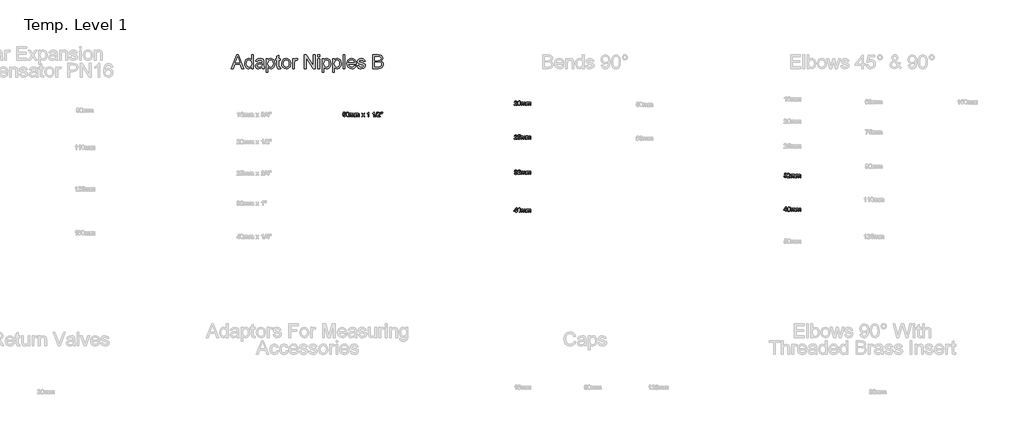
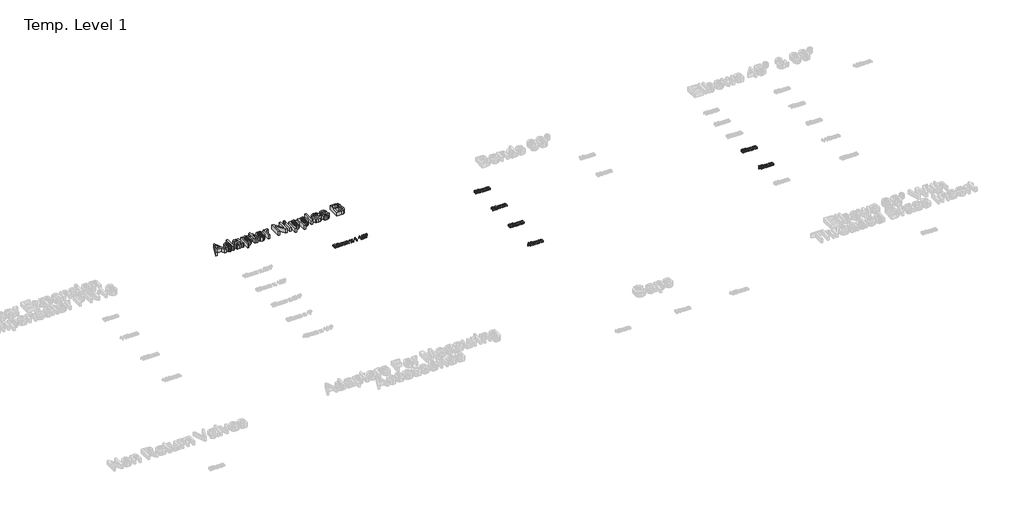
# One storey, part 59 of 62: 8 proxies.
"""IFC4 building model written with IfcOpenShell, lengths in millimetres."""

from ifc_helpers import new_model, si_unit, origin, origin_with_axes, place, context, project, spatial, polyline, outline, extrude, element, save

model = new_model("IFC4")

# Units and contexts
model_context = context("Model", 3, world=origin())
ifc_project = project(units=[si_unit("LENGTHUNIT", "METRE", prefix="MILLI")], contexts=[model_context])

# Site, building, storey
site = spatial("IfcSite", under=ifc_project)
building = spatial("IfcBuilding", under=site)
storey = spatial("IfcBuildingStorey", under=building, Name="Temp. Level 1", Elevation=0.0)

# Proxies
placement = place(None, origin())
element("IfcBuildingElementProxy", 1, Name="150mm Arial", ObjectType="150mm Arial", at=placement, inside=storey, context=model_context, shape_type="SweptSolid", body=[
    extrude(outline(polyline([(17593.1488865, 1929.801483), (17652.1032135, 2077.4937907), (17667.8243673, 2077.4937907), (17726.7786942, 1929.801483), (17707.2714827, 1929.801483), (17690.360425, 1975.9553291), (17629.5310981, 1975.9553291), (17612.6560981, 1929.801483), (17593.1488865, 1929.801483)]), holes=[polyline([(17636.3099442, 1994.4168676), (17683.6176365, 1994.4168676), (17670.3123481, 2030.7269638), (17659.9637904, 2059.0322522), (17650.7690788, 2033.9000407), (17636.3099442, 1994.4168676)])]), origin_with_axes(), (0.0, 0.0, 1.0), 50.0),
    extrude(outline(polyline([(17811.1176365, 1929.801483), (17811.1176365, 1947.2173484), (17798.9030933, 1932.4246801), (17782.0190788, 1927.4937907), (17770.0839827, 1929.2786464), (17759.1585019, 1934.6332138), (17749.9097038, 1943.183394), (17743.0046558, 1954.5550888), (17738.704776, 1968.2885623), (17737.2714827, 1983.9240791), (17742.5539346, 2013.3110984), (17749.1524923, 2024.9667474), (17758.3832615, 2033.5394638), (17769.5476245, 2038.8129013), (17781.9469635, 2040.5707138), (17798.9661942, 2035.5406657), (17811.1176365, 2022.4697522), (17811.1176365, 2077.4937907), (17829.579175, 2077.4937907), (17829.579175, 1929.801483), (17811.1176365, 1929.801483)]), holes=[polyline([(17755.7330212, 1983.9961945), (17757.8153529, 1967.2969758), (17764.0623481, 1955.4204734), (17773.1398721, 1948.3216152), (17783.7137904, 1945.9553291), (17794.2832014, 1948.2134421), (17803.1308577, 1954.9877811), (17809.1209418, 1966.4045479), (17811.1176365, 1982.5899445), (17809.0848841, 2000.285257), (17802.9866269, 2012.5538868), (17793.9136101, 2019.7203532), (17782.9565788, 2022.1091753), (17772.2744875, 2019.8150046), (17763.5214827, 2012.9324926), (17757.6801365, 2001.1100767), (17755.7330212, 1983.9961945)])]), origin_with_axes(), (0.0, 0.0, 1.0), 50.0),
    extrude(outline(polyline([(17926.5022519, 1943.6476368), (17908.5996077, 1931.1356176), (17888.8219635, 1927.4937907), (17873.3937784, 1929.6842955), (17862.0130692, 1936.2558099), (17854.9953409, 1946.2347763), (17852.6560981, 1958.6476368), (17856.1897519, 1973.2510022), (17865.4746077, 1983.8519638), (17878.4012904, 1989.9096561), (17894.3748481, 1992.6860984), (17926.3940788, 1999.0322522), (17926.5022519, 2003.1428291), (17925.2312183, 2011.3820118), (17921.4181173, 2016.7726368), (17912.8904731, 2020.7750407), (17901.0094635, 2022.1091753), (17882.3315788, 2018.5574926), (17873.4253288, 2005.9553291), (17854.9637904, 2008.2630214), (17862.9505692, 2026.2918676), (17879.0323, 2036.8567714), (17903.3892712, 2040.5707138), (17925.7630692, 2037.2894638), (17938.4012904, 2029.0502811), (17944.0623481, 2016.520233), (17944.9637904, 2000.3663868), (17944.9637904, 1977.3976368), (17945.9012904, 1945.3243195), (17949.579175, 1929.801483), (17931.1176365, 1929.801483), (17926.5022519, 1943.6476368)]), holes=[polyline([(17926.5022519, 1980.5707138), (17896.7185981, 1974.9096561), (17880.8351846, 1971.9168676), (17873.641675, 1967.0490791), (17871.1176365, 1959.9457138), (17876.6164346, 1949.957733), (17892.7522519, 1945.9553291), (17911.4301365, 1950.3723964), (17923.4734058, 1961.0635022), (17926.3940788, 1975.3423484), (17926.5022519, 1980.5707138)])]), origin_with_axes(), (0.0, 0.0, 1.0), 50.0),
    extrude(outline(polyline([(17970.3484058, 1888.2630214), (17970.3484058, 2038.2630214), (17988.8099442, 2038.2630214), (17988.8099442, 2020.1620599), (18001.5743673, 2035.4685503), (18018.8099442, 2040.5707138), (18031.2949202, 2038.785858), (18042.2113865, 2033.4312907), (18051.0996077, 2024.8315311), (18057.4998481, 2013.3110984), (18062.6560981, 1984.8615791), (18061.2002688, 1969.0728171), (18056.8327808, 1954.9517234), (18049.6933577, 1943.2149445), (18039.9217231, 1934.5791272), (18028.5410139, 1929.2651248), (18016.5743673, 1927.4937907), (18000.5106654, 1932.2353772), (17988.8099442, 1944.2245599), (17988.8099442, 1888.2630214), (17970.3484058, 1888.2630214)]), holes=[polyline([(17988.8099442, 1983.1668676), (17990.8066389, 1966.6163868), (17996.7967231, 1955.0418676), (18005.6353649, 1948.2269638), (18016.1777327, 1945.9553291), (18026.8913745, 1948.3080936), (18035.9553769, 1955.3663868), (18042.1347639, 1967.3645839), (18044.1945596, 1984.5370599), (18042.1843433, 2000.9973964), (18036.1536942, 2012.7341753), (18027.328574, 2019.7654253), (18016.9349442, 2022.1091753), (18006.5007495, 2019.6166873), (17997.3375885, 2012.1392234), (17990.9418553, 1999.9111585), (17988.8099442, 1983.1668676)])]), origin_with_axes(), (0.0, 0.0, 1.0), 50.0),
    extrude(outline(polyline([(18122.6560981, 1945.1981176), (18124.9637904, 1929.2606176), (18111.1536942, 1927.4937907), (18095.6849442, 1930.5586945), (18087.9685981, 1938.5995599), (18085.7330212, 1959.5490791), (18085.7330212, 2019.801483), (18071.8868673, 2019.801483), (18071.8868673, 2038.2630214), (18085.7330212, 2038.2630214), (18085.7330212, 2064.6211945), (18104.1945596, 2075.4745599), (18104.1945596, 2038.2630214), (18122.6560981, 2038.2630214), (18122.6560981, 2019.801483), (18104.1945596, 2019.801483), (18104.1945596, 1960.0899445), (18105.1681173, 1950.5707138), (18108.3231654, 1947.1993195), (18114.6152327, 1945.9553291), (18122.6560981, 1945.1981176)])), origin_with_axes(), (0.0, 0.0, 1.0), 50.0),
    extrude(outline(polyline([(18136.5022519, 1984.0322522), (18140.4956413, 2010.1830936), (18152.4758096, 2028.5635022), (18167.2774923, 2037.5689109), (18184.9998481, 2040.5707138), (18204.3943793, 2036.9153652), (18219.8856654, 2025.9493195), (18230.040413, 2008.5379613), (18233.4253288, 1985.5466753), (18231.9289346, 1966.8958339), (18227.4397519, 1952.6981176), (18220.0884899, 1942.0656056), (18210.0058577, 1934.1103772), (18198.0301966, 1929.1479373), (18184.9998481, 1927.4937907), (18165.3709418, 1931.1356176), (18149.8976846, 1942.0610984), (18139.8511101, 1959.8375407), (18136.5022519, 1984.0322522)]), holes=[polyline([(18154.9637904, 1984.0683099), (18157.1002087, 1967.3600767), (18163.5094635, 1955.4565311), (18173.1548962, 1948.3306296), (18184.9998481, 1945.9553291), (18196.7907135, 1948.3441513), (18206.4181173, 1955.5106176), (18212.8273721, 1967.5719157), (18214.9637904, 1984.645233), (18212.8138505, 2000.8666873), (18206.3640308, 2012.6079734), (18196.7231053, 2019.7338748), (18184.9998481, 2022.1091753), (18173.1548962, 2019.7428892), (18163.5094635, 2012.6440311), (18157.1002087, 2000.7675287), (18154.9637904, 1984.0683099)])]), origin_with_axes(), (0.0, 0.0, 1.0), 50.0),
    extrude(outline(polyline([(18254.1945596, 1929.801483), (18254.1945596, 2038.2630214), (18270.3484058, 2038.2630214), (18270.3484058, 2022.2173484), (18281.8147519, 2037.0010022), (18293.3532135, 2040.5707138), (18311.8868673, 2034.8735984), (18305.7210019, 2018.3231176), (18292.7402327, 2022.1091753), (18282.3015308, 2018.4673484), (18275.6488865, 2008.3711945), (18272.6560981, 1986.8086945), (18272.6560981, 1929.801483), (18254.1945596, 1929.801483)])), origin_with_axes(), (0.0, 0.0, 1.0), 50.0),
    extrude(outline(polyline([(18383.4253288, 1929.801483), (18383.4253288, 2077.4937907), (18403.1849442, 2077.4937907), (18480.3484058, 1960.4865791), (18480.3484058, 2077.4937907), (18498.8099442, 2077.4937907), (18498.8099442, 1929.801483), (18479.0503288, 1929.801483), (18401.8868673, 2046.8447522), (18401.8868673, 1929.801483), (18383.4253288, 1929.801483)])), origin_with_axes(), (0.0, 0.0, 1.0), 50.0),
    extrude(outline(polyline([(18528.8099442, 1929.801483), (18528.8099442, 2038.2630214), (18547.2714827, 2038.2630214), (18547.2714827, 1929.801483), (18528.8099442, 1929.801483)])), origin_with_axes(), (0.0, 0.0, 1.0), 50.0),
    extrude(outline(polyline([(18528.8099442, 2059.0322522), (18528.8099442, 2077.4937907), (18547.2714827, 2077.4937907), (18547.2714827, 2059.0322522), (18528.8099442, 2059.0322522)])), origin_with_axes(), (0.0, 0.0, 1.0), 50.0),
    extrude(outline(polyline([(18574.9637904, 1888.2630214), (18574.9637904, 2038.2630214), (18593.4253288, 2038.2630214), (18593.4253288, 2020.1620599), (18606.1897519, 2035.4685503), (18623.4253288, 2040.5707138), (18635.9103048, 2038.785858), (18646.8267712, 2033.4312907), (18655.7149923, 2024.8315311), (18662.1152327, 2013.3110984), (18667.2714827, 1984.8615791), (18665.8156534, 1969.0728171), (18661.4481654, 1954.9517234), (18654.3087423, 1943.2149445), (18644.5371077, 1934.5791272), (18633.1563986, 1929.2651248), (18621.1897519, 1927.4937907), (18605.12605, 1932.2353772), (18593.4253288, 1944.2245599), (18593.4253288, 1888.2630214), (18574.9637904, 1888.2630214)]), holes=[polyline([(18593.4253288, 1983.1668676), (18595.4220236, 1966.6163868), (18601.4121077, 1955.0418676), (18610.2507495, 1948.2269638), (18620.7931173, 1945.9553291), (18631.5067591, 1948.3080936), (18640.5707615, 1955.3663868), (18646.7501486, 1967.3645839), (18648.8099442, 1984.5370599), (18646.7997279, 2000.9973964), (18640.7690788, 2012.7341753), (18631.9439587, 2019.7654253), (18621.5503288, 2022.1091753), (18611.1161341, 2019.6166873), (18601.9529731, 2012.1392234), (18595.5572399, 1999.9111585), (18593.4253288, 1983.1668676)])]), origin_with_axes(), (0.0, 0.0, 1.0), 50.0),
    extrude(outline(polyline([(18688.0407135, 1888.2630214), (18688.0407135, 2038.2630214), (18706.5022519, 2038.2630214), (18706.5022519, 2020.1620599), (18719.266675, 2035.4685503), (18736.5022519, 2040.5707138), (18748.9872279, 2038.785858), (18759.9036942, 2033.4312907), (18768.7919154, 2024.8315311), (18775.1921558, 2013.3110984), (18780.3484058, 1984.8615791), (18778.8925764, 1969.0728171), (18774.5250885, 1954.9517234), (18767.3856654, 1943.2149445), (18757.6140308, 1934.5791272), (18746.2333216, 1929.2651248), (18734.266675, 1927.4937907), (18718.2029731, 1932.2353772), (18706.5022519, 1944.2245599), (18706.5022519, 1888.2630214), (18688.0407135, 1888.2630214)]), holes=[polyline([(18706.5022519, 1983.1668676), (18708.4989466, 1966.6163868), (18714.4890308, 1955.0418676), (18723.3276726, 1948.2269638), (18733.8700404, 1945.9553291), (18744.5836822, 1948.3080936), (18753.6476846, 1955.3663868), (18759.8270716, 1967.3645839), (18761.8868673, 1984.5370599), (18759.876651, 2000.9973964), (18753.8460019, 2012.7341753), (18745.0208817, 2019.7654253), (18734.6272519, 2022.1091753), (18724.1930572, 2019.6166873), (18715.0298962, 2012.1392234), (18708.634163, 1999.9111585), (18706.5022519, 1983.1668676)])]), origin_with_axes(), (0.0, 0.0, 1.0), 50.0),
    extrude(outline(polyline([(18801.1176365, 1929.801483), (18801.1176365, 2077.4937907), (18819.579175, 2077.4937907), (18819.579175, 1929.801483), (18801.1176365, 1929.801483)])), origin_with_axes(), (0.0, 0.0, 1.0), 50.0),
    extrude(outline(polyline([(18923.2089827, 1962.1091753), (18941.3099442, 1959.801483), (18934.7880091, 1946.1626609), (18924.3808577, 1935.9673484), (18910.3228649, 1929.6121801), (18892.8484058, 1927.4937907), (18871.1867471, 1931.1491392), (18854.5190788, 1942.1151849), (18843.891074, 1959.6797883), (18840.3484058, 1983.1308099), (18843.9271317, 2007.3705936), (18854.6633096, 2025.4985984), (18871.1056173, 2036.8026849), (18891.8027327, 2040.5707138), (18911.8553168, 2036.8116993), (18927.8784538, 2025.5346561), (18938.3847639, 2007.4427089), (18941.8868673, 1983.238983), (18941.7786942, 1978.2630214), (18858.8099442, 1978.2630214), (18862.0055572, 1964.4439109), (18869.4289346, 1954.2846561), (18880.1425764, 1948.0376609), (18893.2089827, 1945.9553291), (18911.3099442, 1949.8135022), (18923.2089827, 1962.1091753)]), holes=[polyline([(18858.8099442, 1996.7245599), (18923.4253288, 1996.7245599), (18920.9283337, 2006.4781657), (18916.0335019, 2013.4553291), (18905.2702808, 2019.9457138), (18891.7306173, 2022.1091753), (18879.2862063, 2020.3829133), (18868.9962423, 2015.2041272), (18861.8432976, 2007.1317113), (18858.8099442, 1996.7245599)])]), origin_with_axes(), (0.0, 0.0, 1.0), 50.0),
    extrude(outline(polyline([(18953.4253288, 1962.1091753), (18971.8868673, 1964.4168676), (18974.798526, 1956.520233), (18980.4325404, 1950.7149445), (19000.0118673, 1945.9553291), (19018.8339827, 1950.3183099), (19024.9637904, 1960.5586945), (19018.797925, 1968.8519638), (18999.7955212, 1974.1163868), (18971.9950404, 1983.1488388), (18959.8616269, 1993.6957138), (18955.7330212, 2008.5875407), (18959.0503288, 2022.3435503), (18968.1008096, 2032.8543676), (18979.8375885, 2038.317108), (18995.7210019, 2040.5707138), (19018.1849442, 2036.9469157), (19032.4637904, 2027.1392234), (19038.8099442, 2010.5707138), (19020.3484058, 2008.2630214), (19013.4073, 2018.4493195), (18997.1633096, 2022.1091753), (18979.4950404, 2018.6115791), (18974.1945596, 2010.4625407), (18976.3940788, 2005.0899445), (18983.2810981, 2001.0154253), (18999.1825404, 1997.0851368), (19026.2798962, 1988.395233), (19038.8640308, 1978.551483), (19043.4253288, 1962.5058099), (19038.0707615, 1944.8375407), (19022.6200404, 1932.0190311), (18999.7594635, 1927.4937907), (18981.1446798, 1929.6752811), (18967.5599442, 1936.2197522), (18958.4914346, 1947.0550888), (18953.4253288, 1962.1091753)])), origin_with_axes(), (0.0, 0.0, 1.0), 50.0),
    extrude(outline(polyline([(19124.1945596, 1929.801483), (19124.1945596, 2077.4937907), (19180.5527327, 2077.4937907), (19208.1548962, 2073.1488388), (19217.4307375, 2067.636519), (19224.4529731, 2059.7894638), (19230.3484058, 2040.895233), (19225.3904731, 2023.6416272), (19210.4085019, 2010.5707138), (19220.8697399, 2005.1079734), (19228.5996077, 1996.7966753), (19233.3727447, 1986.1866993), (19234.9637904, 1973.8279253), (19230.6188385, 1953.9781657), (19219.8556173, 1939.8435503), (19203.7919154, 1932.3435503), (19180.1200404, 1929.801483), (19124.1945596, 1929.801483)]), holes=[polyline([(19142.6560981, 1948.2630214), (19180.516675, 1948.2630214), (19194.2185981, 1948.9841753), (19205.8111462, 1953.004608), (19213.4914346, 1961.207733), (19216.5022519, 1973.6476368), (19212.9685981, 1987.9985984), (19201.5202808, 1996.5623003), (19178.7137904, 1999.0322522), (19142.6560981, 1999.0322522), (19142.6560981, 1948.2630214)]), polyline([(19142.6560981, 2017.4937907), (19176.3700404, 2017.4937907), (19196.0575404, 2019.0803291), (19207.9024923, 2025.9132618), (19211.8868673, 2037.9385022), (19208.172925, 2049.9817714), (19197.5359058, 2057.1031657), (19173.8099442, 2059.0322522), (19142.6560981, 2059.0322522), (19142.6560981, 2017.4937907)])]), origin_with_axes(), (0.0, 0.0, 1.0), 50.0),
])
element("IfcBuildingElementProxy", 2, Name="50mm Arial", ObjectType="50mm Arial", at=placement, inside=storey, context=model_context, shape_type="SweptSolid", body=[
    extrude(outline(polyline([(18795.8008487, 1422.8784061), (18801.9546948, 1423.6476368), (18805.0556564, 1417.3074926), (18811.4859448, 1415.1860984), (18819.202291, 1418.1368195), (18821.9546948, 1425.9673484), (18819.3765698, 1433.2750407), (18811.5820987, 1435.9553291), (18806.1794545, 1434.8856176), (18802.7239256, 1432.1091753), (18796.5700795, 1432.8784061), (18801.9546948, 1458.2630214), (18825.8008487, 1458.2630214), (18825.8008487, 1452.1091753), (18806.9306564, 1452.1091753), (18804.2984448, 1438.551483), (18813.3008487, 1442.1091753), (18823.8236852, 1437.6981176), (18828.108541, 1426.3519638), (18824.2503679, 1414.9336945), (18818.7095025, 1410.5076128), (18811.4619064, 1409.0322522), (18800.6025314, 1412.8243195), (18795.8008487, 1422.8784061)])), origin_with_axes(), (0.0, 0.0, 1.0), 15.0),
    extrude(outline(polyline([(18833.4931564, 1434.020233), (18835.3020506, 1448.1848964), (18840.6746468, 1456.3519638), (18849.6470025, 1459.0322522), (18856.8345025, 1457.4457138), (18861.7984448, 1452.8723964), (18864.6830602, 1445.5887426), (18865.8008487, 1434.020233), (18864.0099833, 1419.9156657), (18858.655416, 1411.7305695), (18849.6470025, 1409.0322522), (18838.3970025, 1413.7197522), (18834.7191179, 1422.0460743), (18833.4931564, 1434.020233)]), holes=[polyline([(18839.6470025, 1434.0322522), (18842.5316179, 1418.7498003), (18849.6470025, 1415.1860984), (18856.7623871, 1418.7618195), (18859.6470025, 1434.0322522), (18856.858541, 1449.1404253), (18849.5748871, 1452.8784061), (18842.6277718, 1449.5851368), (18839.6470025, 1434.0322522)])]), origin_with_axes(), (0.0, 0.0, 1.0), 15.0),
    extrude(outline(polyline([(18872.7239256, 1409.801483), (18872.7239256, 1445.9553291), (18878.8777718, 1445.9553291), (18878.8777718, 1440.0058099), (18883.108541, 1444.879608), (18889.1301756, 1446.7245599), (18895.296041, 1444.8435503), (18898.6854641, 1439.5731176), (18903.4871468, 1444.9366993), (18909.5508487, 1446.7245599), (18917.5977237, 1443.7498003), (18920.4162333, 1434.5851368), (18920.4162333, 1409.801483), (18914.2623871, 1409.801483), (18914.2623871, 1431.9409061), (18913.6914737, 1437.0791272), (18911.624166, 1439.6091753), (18908.108541, 1440.5707138), (18902.0568583, 1438.1067714), (18899.6470025, 1430.2101368), (18899.6470025, 1409.801483), (18893.4931564, 1409.801483), (18893.4931564, 1432.6260022), (18892.0688775, 1438.5875407), (18887.3994064, 1440.5707138), (18882.8441179, 1439.2485984), (18879.8152718, 1435.3784061), (18878.8777718, 1428.0346561), (18878.8777718, 1409.801483), (18872.7239256, 1409.801483)])), origin_with_axes(), (0.0, 0.0, 1.0), 15.0),
    extrude(outline(polyline([(18929.6470025, 1409.801483), (18929.6470025, 1445.9553291), (18935.8008487, 1445.9553291), (18935.8008487, 1440.0058099), (18940.0316179, 1444.879608), (18946.0532525, 1446.7245599), (18952.2191179, 1444.8435503), (18955.608541, 1439.5731176), (18960.4102237, 1444.9366993), (18966.4739256, 1446.7245599), (18974.5208006, 1443.7498003), (18977.3393102, 1434.5851368), (18977.3393102, 1409.801483), (18971.1854641, 1409.801483), (18971.1854641, 1431.9409061), (18970.6145506, 1437.0791272), (18968.5472429, 1439.6091753), (18965.0316179, 1440.5707138), (18958.9799352, 1438.1067714), (18956.5700795, 1430.2101368), (18956.5700795, 1409.801483), (18950.4162333, 1409.801483), (18950.4162333, 1432.6260022), (18948.9919545, 1438.5875407), (18944.3224833, 1440.5707138), (18939.7671948, 1439.2485984), (18936.7383487, 1435.3784061), (18935.8008487, 1428.0346561), (18935.8008487, 1409.801483), (18929.6470025, 1409.801483)])), origin_with_axes(), (0.0, 0.0, 1.0), 15.0),
    extrude(outline(polyline([(19001.9546948, 1409.801483), (19015.1037333, 1427.9745599), (19002.7239256, 1445.9553291), (19010.1277718, 1445.9553291), (19016.1013295, 1437.301483), (19018.889791, 1433.2149445), (19021.3056564, 1436.5562907), (19028.108541, 1445.9553291), (19035.5123871, 1445.9553291), (19022.5075795, 1427.9745599), (19035.0316179, 1409.801483), (19027.6277718, 1409.801483), (19020.0917141, 1420.7269638), (19018.7095025, 1422.7221561), (19009.358541, 1409.801483), (19001.9546948, 1409.801483)])), origin_with_axes(), (0.0, 0.0, 1.0), 15.0),
    extrude(outline(polyline([(19081.1854641, 1409.801483), (19075.0316179, 1409.801483), (19075.0316179, 1448.1668676), (19069.202291, 1444.0142234), (19062.7239256, 1440.9072522), (19062.7239256, 1446.7245599), (19071.7443583, 1452.4817714), (19077.2191179, 1459.0322522), (19081.1854641, 1459.0322522), (19081.1854641, 1409.801483)])), origin_with_axes(), (0.0, 0.0, 1.0), 15.0),
    extrude(outline(polyline([(19138.108541, 1409.801483), (19131.9546948, 1409.801483), (19131.9546948, 1448.1668676), (19126.1253679, 1444.0142234), (19119.6470025, 1440.9072522), (19119.6470025, 1446.7245599), (19128.6674352, 1452.4817714), (19134.1421948, 1459.0322522), (19138.108541, 1459.0322522), (19138.108541, 1409.801483)])), origin_with_axes(), (0.0, 0.0, 1.0), 15.0),
    extrude(outline(polyline([(19149.6470025, 1409.801483), (19163.4931564, 1459.0322522), (19169.046041, 1459.0322522), (19155.1998871, 1409.801483), (19149.6470025, 1409.801483)])), origin_with_axes(), (0.0, 0.0, 1.0), 15.0),
    extrude(outline(polyline([(19203.4931564, 1415.9553291), (19203.4931564, 1409.801483), (19171.1854641, 1409.801483), (19171.8465218, 1414.0442714), (19175.5845025, 1420.5767234), (19183.2888295, 1427.7101368), (19193.9138295, 1437.9625407), (19196.5700795, 1444.9336945), (19194.0640698, 1450.5767234), (19187.5195987, 1452.8784061), (19180.6986852, 1450.6308099), (19178.108541, 1444.4168676), (19171.9546948, 1445.1860984), (19176.6722429, 1455.4865791), (19187.6518102, 1459.0322522), (19198.6674352, 1455.0899445), (19202.7239256, 1445.3062907), (19201.6301756, 1439.4709541), (19197.9943583, 1433.4373003), (19189.1782525, 1425.0058099), (19182.0989256, 1419.0863388), (19179.3224833, 1415.9553291), (19203.4931564, 1415.9553291)])), origin_with_axes(), (0.0, 0.0, 1.0), 15.0),
    extrude(outline(polyline([(19223.421041, 1441.3399445), (19221.9546948, 1450.8471561), (19221.9546948, 1459.0322522), (19228.108541, 1459.0322522), (19228.108541, 1450.8471561), (19226.6662333, 1441.3399445), (19223.421041, 1441.3399445)])), origin_with_axes(), (0.0, 0.0, 1.0), 15.0),
    extrude(outline(polyline([(19211.1494064, 1441.3399445), (19209.6470025, 1450.8471561), (19209.6470025, 1459.0322522), (19215.8008487, 1459.0322522), (19215.8008487, 1450.8471561), (19214.4546948, 1441.3399445), (19211.1494064, 1441.3399445)])), origin_with_axes(), (0.0, 0.0, 1.0), 15.0),
])
element("IfcBuildingElementProxy", 3, Name="50mm Arial", ObjectType="50mm Arial", at=placement, inside=storey, context=model_context, shape_type="SweptSolid", body=[
    extrude(outline(polyline([(20682.7745802, 1538.4553291), (20682.7745802, 1532.301483), (20650.4668879, 1532.301483), (20651.1279456, 1536.5442714), (20654.8659263, 1543.0767234), (20662.5702533, 1550.2101368), (20673.1952533, 1560.4625407), (20675.8515033, 1567.4336945), (20673.3454936, 1573.0767234), (20666.8010225, 1575.3784061), (20659.980109, 1573.1308099), (20657.3899648, 1566.9168676), (20651.2361186, 1567.6860984), (20655.9536667, 1577.9865791), (20666.933234, 1581.5322522), (20677.948859, 1577.5899445), (20682.0053494, 1567.8062907), (20680.9115994, 1561.9709541), (20677.2757821, 1555.9373003), (20668.4596763, 1547.5058099), (20661.3803494, 1541.5863388), (20658.6039071, 1538.4553291), (20682.7745802, 1538.4553291)])), origin_with_axes(), (0.0, 0.0, 1.0), 15.0),
    extrude(outline(polyline([(20688.9284263, 1556.520233), (20690.7373206, 1570.6848964), (20696.1099167, 1578.8519638), (20705.0822725, 1581.5322522), (20712.2697725, 1579.9457138), (20717.2337148, 1575.3723964), (20720.1183302, 1568.0887426), (20721.2361186, 1556.520233), (20719.4452533, 1542.4156657), (20714.0906859, 1534.2305695), (20705.0822725, 1531.5322522), (20693.8322725, 1536.2197522), (20690.1543879, 1544.5460743), (20688.9284263, 1556.520233)]), holes=[polyline([(20695.0822725, 1556.5322522), (20697.9668879, 1541.2498003), (20705.0822725, 1537.6860984), (20712.1976571, 1541.2618195), (20715.0822725, 1556.5322522), (20712.2938109, 1571.6404253), (20705.0101571, 1575.3784061), (20698.0630417, 1572.0851368), (20695.0822725, 1556.5322522)])]), origin_with_axes(), (0.0, 0.0, 1.0), 15.0),
    extrude(outline(polyline([(20728.1591956, 1532.301483), (20728.1591956, 1568.4553291), (20734.3130417, 1568.4553291), (20734.3130417, 1562.5058099), (20738.5438109, 1567.379608), (20744.5654456, 1569.2245599), (20750.7313109, 1567.3435503), (20754.120734, 1562.0731176), (20758.9224167, 1567.4366993), (20764.9861186, 1569.2245599), (20773.0329936, 1566.2498003), (20775.8515033, 1557.0851368), (20775.8515033, 1532.301483), (20769.6976571, 1532.301483), (20769.6976571, 1554.4409061), (20769.1267436, 1559.5791272), (20767.0594359, 1562.1091753), (20763.5438109, 1563.0707138), (20757.4921283, 1560.6067714), (20755.0822725, 1552.7101368), (20755.0822725, 1532.301483), (20748.9284263, 1532.301483), (20748.9284263, 1555.1260022), (20747.5041475, 1561.0875407), (20742.8346763, 1563.0707138), (20738.2793879, 1561.7485984), (20735.2505417, 1557.8784061), (20734.3130417, 1550.5346561), (20734.3130417, 1532.301483), (20728.1591956, 1532.301483)])), origin_with_axes(), (0.0, 0.0, 1.0), 15.0),
    extrude(outline(polyline([(20785.0822725, 1532.301483), (20785.0822725, 1568.4553291), (20791.2361186, 1568.4553291), (20791.2361186, 1562.5058099), (20795.4668879, 1567.379608), (20801.4885225, 1569.2245599), (20807.6543879, 1567.3435503), (20811.0438109, 1562.0731176), (20815.8454936, 1567.4366993), (20821.9091956, 1569.2245599), (20829.9560706, 1566.2498003), (20832.7745802, 1557.0851368), (20832.7745802, 1532.301483), (20826.620734, 1532.301483), (20826.620734, 1554.4409061), (20826.0498206, 1559.5791272), (20823.9825129, 1562.1091753), (20820.4668879, 1563.0707138), (20814.4152052, 1560.6067714), (20812.0053494, 1552.7101368), (20812.0053494, 1532.301483), (20805.8515033, 1532.301483), (20805.8515033, 1555.1260022), (20804.4272244, 1561.0875407), (20799.7577533, 1563.0707138), (20795.2024648, 1561.7485984), (20792.1736186, 1557.8784061), (20791.2361186, 1550.5346561), (20791.2361186, 1532.301483), (20785.0822725, 1532.301483)])), origin_with_axes(), (0.0, 0.0, 1.0), 15.0),
])
element("IfcBuildingElementProxy", 4, Name="50mm Arial", ObjectType="50mm Arial", at=placement, inside=storey, context=model_context, shape_type="SweptSolid", body=[
    extrude(outline(polyline([(20682.7745802, 1170.9553291), (20682.7745802, 1164.801483), (20650.4668879, 1164.801483), (20651.1279456, 1169.0442714), (20654.8659263, 1175.5767234), (20662.5702533, 1182.7101368), (20673.1952533, 1192.9625407), (20675.8515033, 1199.9336945), (20673.3454936, 1205.5767234), (20666.8010225, 1207.8784061), (20659.980109, 1205.6308099), (20657.3899648, 1199.4168676), (20651.2361186, 1200.1860984), (20655.9536667, 1210.4865791), (20666.933234, 1214.0322522), (20677.948859, 1210.0899445), (20682.0053494, 1200.3062907), (20680.9115994, 1194.4709541), (20677.2757821, 1188.4373003), (20668.4596763, 1180.0058099), (20661.3803494, 1174.0863388), (20658.6039071, 1170.9553291), (20682.7745802, 1170.9553291)])), origin_with_axes(), (0.0, 0.0, 1.0), 15.0),
    extrude(outline(polyline([(20688.9284263, 1177.8784061), (20695.0822725, 1178.6476368), (20698.183234, 1172.3074926), (20704.6135225, 1170.1860984), (20712.3298686, 1173.1368195), (20715.0822725, 1180.9673484), (20712.5041475, 1188.2750407), (20704.7096763, 1190.9553291), (20699.3070321, 1189.8856176), (20695.8515033, 1187.1091753), (20689.6976571, 1187.8784061), (20695.0822725, 1213.2630214), (20718.9284263, 1213.2630214), (20718.9284263, 1207.1091753), (20700.058234, 1207.1091753), (20697.4260225, 1193.551483), (20706.4284263, 1197.1091753), (20716.9512629, 1192.6981176), (20721.2361186, 1181.3519638), (20717.3779456, 1169.9336945), (20711.8370802, 1165.5076128), (20704.589484, 1164.0322522), (20693.730109, 1167.8243195), (20688.9284263, 1177.8784061)])), origin_with_axes(), (0.0, 0.0, 1.0), 15.0),
    extrude(outline(polyline([(20728.1591956, 1164.801483), (20728.1591956, 1200.9553291), (20734.3130417, 1200.9553291), (20734.3130417, 1195.0058099), (20738.5438109, 1199.879608), (20744.5654456, 1201.7245599), (20750.7313109, 1199.8435503), (20754.120734, 1194.5731176), (20758.9224167, 1199.9366993), (20764.9861186, 1201.7245599), (20773.0329936, 1198.7498003), (20775.8515033, 1189.5851368), (20775.8515033, 1164.801483), (20769.6976571, 1164.801483), (20769.6976571, 1186.9409061), (20769.1267436, 1192.0791272), (20767.0594359, 1194.6091753), (20763.5438109, 1195.5707138), (20757.4921283, 1193.1067714), (20755.0822725, 1185.2101368), (20755.0822725, 1164.801483), (20748.9284263, 1164.801483), (20748.9284263, 1187.6260022), (20747.5041475, 1193.5875407), (20742.8346763, 1195.5707138), (20738.2793879, 1194.2485984), (20735.2505417, 1190.3784061), (20734.3130417, 1183.0346561), (20734.3130417, 1164.801483), (20728.1591956, 1164.801483)])), origin_with_axes(), (0.0, 0.0, 1.0), 15.0),
    extrude(outline(polyline([(20785.0822725, 1164.801483), (20785.0822725, 1200.9553291), (20791.2361186, 1200.9553291), (20791.2361186, 1195.0058099), (20795.4668879, 1199.879608), (20801.4885225, 1201.7245599), (20807.6543879, 1199.8435503), (20811.0438109, 1194.5731176), (20815.8454936, 1199.9366993), (20821.9091956, 1201.7245599), (20829.9560706, 1198.7498003), (20832.7745802, 1189.5851368), (20832.7745802, 1164.801483), (20826.620734, 1164.801483), (20826.620734, 1186.9409061), (20826.0498206, 1192.0791272), (20823.9825129, 1194.6091753), (20820.4668879, 1195.5707138), (20814.4152052, 1193.1067714), (20812.0053494, 1185.2101368), (20812.0053494, 1164.801483), (20805.8515033, 1164.801483), (20805.8515033, 1187.6260022), (20804.4272244, 1193.5875407), (20799.7577533, 1195.5707138), (20795.2024648, 1194.2485984), (20792.1736186, 1190.3784061), (20791.2361186, 1183.0346561), (20791.2361186, 1164.801483), (20785.0822725, 1164.801483)])), origin_with_axes(), (0.0, 0.0, 1.0), 15.0),
])
element("IfcBuildingElementProxy", 5, Name="50mm Arial", ObjectType="50mm Arial", at=placement, inside=storey, context=model_context, shape_type="SweptSolid", body=[
    extrude(outline(polyline([(20651.2361186, 797.8784061), (20657.3899648, 798.6476368), (20660.7853975, 792.1692714), (20667.1375609, 790.1860984), (20674.6135225, 792.9144638), (20677.3899648, 799.6692714), (20674.6375609, 806.0334541), (20667.6423686, 808.551483), (20663.3274648, 807.8784061), (20664.0125609, 814.0322522), (20671.9813109, 815.7269638), (20675.0822725, 821.1596561), (20672.8346763, 825.973358), (20667.0414071, 827.8784061), (20661.1760225, 825.9553291), (20658.1591956, 820.1860984), (20652.0053494, 820.9553291), (20657.0414071, 830.6067714), (20666.8250609, 834.0322522), (20674.2469359, 832.3435503), (20679.4392436, 827.7281657), (20681.2361186, 821.520233), (20679.5293879, 815.8471561), (20674.4813109, 811.7726368), (20681.1880417, 807.5659061), (20683.5438109, 799.5610984), (20678.8322725, 788.551483), (20666.9212148, 784.0322522), (20656.1279456, 787.8904253), (20651.2361186, 797.8784061)])), origin_with_axes(), (0.0, 0.0, 1.0), 15.0),
    extrude(outline(polyline([(20720.4668879, 790.9553291), (20720.4668879, 784.801483), (20688.1591956, 784.801483), (20688.8202533, 789.0442714), (20692.558234, 795.5767234), (20700.2625609, 802.7101368), (20710.8875609, 812.9625407), (20713.5438109, 819.9336945), (20711.0378013, 825.5767234), (20704.4933302, 827.8784061), (20697.6724167, 825.6308099), (20695.0822725, 819.4168676), (20688.9284263, 820.1860984), (20693.6459744, 830.4865791), (20704.6255417, 834.0322522), (20715.6411667, 830.0899445), (20719.6976571, 820.3062907), (20718.6039071, 814.4709541), (20714.9680898, 808.4373003), (20706.151984, 800.0058099), (20699.0726571, 794.0863388), (20696.2962148, 790.9553291), (20720.4668879, 790.9553291)])), origin_with_axes(), (0.0, 0.0, 1.0), 15.0),
    extrude(outline(polyline([(20728.1591956, 784.801483), (20728.1591956, 820.9553291), (20734.3130417, 820.9553291), (20734.3130417, 815.0058099), (20738.5438109, 819.879608), (20744.5654456, 821.7245599), (20750.7313109, 819.8435503), (20754.120734, 814.5731176), (20758.9224167, 819.9366993), (20764.9861186, 821.7245599), (20773.0329936, 818.7498003), (20775.8515033, 809.5851368), (20775.8515033, 784.801483), (20769.6976571, 784.801483), (20769.6976571, 806.9409061), (20769.1267436, 812.0791272), (20767.0594359, 814.6091753), (20763.5438109, 815.5707138), (20757.4921283, 813.1067714), (20755.0822725, 805.2101368), (20755.0822725, 784.801483), (20748.9284263, 784.801483), (20748.9284263, 807.6260022), (20747.5041475, 813.5875407), (20742.8346763, 815.5707138), (20738.2793879, 814.2485984), (20735.2505417, 810.3784061), (20734.3130417, 803.0346561), (20734.3130417, 784.801483), (20728.1591956, 784.801483)])), origin_with_axes(), (0.0, 0.0, 1.0), 15.0),
    extrude(outline(polyline([(20785.0822725, 784.801483), (20785.0822725, 820.9553291), (20791.2361186, 820.9553291), (20791.2361186, 815.0058099), (20795.4668879, 819.879608), (20801.4885225, 821.7245599), (20807.6543879, 819.8435503), (20811.0438109, 814.5731176), (20815.8454936, 819.9366993), (20821.9091956, 821.7245599), (20829.9560706, 818.7498003), (20832.7745802, 809.5851368), (20832.7745802, 784.801483), (20826.620734, 784.801483), (20826.620734, 806.9409061), (20826.0498206, 812.0791272), (20823.9825129, 814.6091753), (20820.4668879, 815.5707138), (20814.4152052, 813.1067714), (20812.0053494, 805.2101368), (20812.0053494, 784.801483), (20805.8515033, 784.801483), (20805.8515033, 807.6260022), (20804.4272244, 813.5875407), (20799.7577533, 815.5707138), (20795.2024648, 814.2485984), (20792.1736186, 810.3784061), (20791.2361186, 803.0346561), (20791.2361186, 784.801483), (20785.0822725, 784.801483)])), origin_with_axes(), (0.0, 0.0, 1.0), 15.0),
])
element("IfcBuildingElementProxy", 6, Name="50mm Arial", ObjectType="50mm Arial", at=placement, inside=storey, context=model_context, shape_type="SweptSolid", body=[
    extrude(outline(polyline([(20671.2361186, 374.801483), (20671.2361186, 386.3399445), (20648.9284263, 386.3399445), (20648.9284263, 392.4937907), (20672.7745802, 423.2630214), (20677.3899648, 423.2630214), (20677.3899648, 392.4937907), (20683.5438109, 392.4937907), (20683.5438109, 386.3399445), (20677.3899648, 386.3399445), (20677.3899648, 374.801483), (20671.2361186, 374.801483)]), holes=[polyline([(20671.2361186, 392.4937907), (20671.2361186, 411.5082138), (20656.5005417, 392.4937907), (20671.2361186, 392.4937907)])]), origin_with_axes(), (0.0, 0.0, 1.0), 15.0),
    extrude(outline(polyline([(20688.9284263, 399.020233), (20690.7373206, 413.1848964), (20696.1099167, 421.3519638), (20705.0822725, 424.0322522), (20712.2697725, 422.4457138), (20717.2337148, 417.8723964), (20720.1183302, 410.5887426), (20721.2361186, 399.020233), (20719.4452533, 384.9156657), (20714.0906859, 376.7305695), (20705.0822725, 374.0322522), (20693.8322725, 378.7197522), (20690.1543879, 387.0460743), (20688.9284263, 399.020233)]), holes=[polyline([(20695.0822725, 399.0322522), (20697.9668879, 383.7498003), (20705.0822725, 380.1860984), (20712.1976571, 383.7618195), (20715.0822725, 399.0322522), (20712.2938109, 414.1404253), (20705.0101571, 417.8784061), (20698.0630417, 414.5851368), (20695.0822725, 399.0322522)])]), origin_with_axes(), (0.0, 0.0, 1.0), 15.0),
    extrude(outline(polyline([(20728.1591956, 374.801483), (20728.1591956, 410.9553291), (20734.3130417, 410.9553291), (20734.3130417, 405.0058099), (20738.5438109, 409.879608), (20744.5654456, 411.7245599), (20750.7313109, 409.8435503), (20754.120734, 404.5731176), (20758.9224167, 409.9366993), (20764.9861186, 411.7245599), (20773.0329936, 408.7498003), (20775.8515033, 399.5851368), (20775.8515033, 374.801483), (20769.6976571, 374.801483), (20769.6976571, 396.9409061), (20769.1267436, 402.0791272), (20767.0594359, 404.6091753), (20763.5438109, 405.5707138), (20757.4921283, 403.1067714), (20755.0822725, 395.2101368), (20755.0822725, 374.801483), (20748.9284263, 374.801483), (20748.9284263, 397.6260022), (20747.5041475, 403.5875407), (20742.8346763, 405.5707138), (20738.2793879, 404.2485984), (20735.2505417, 400.3784061), (20734.3130417, 393.0346561), (20734.3130417, 374.801483), (20728.1591956, 374.801483)])), origin_with_axes(), (0.0, 0.0, 1.0), 15.0),
    extrude(outline(polyline([(20785.0822725, 374.801483), (20785.0822725, 410.9553291), (20791.2361186, 410.9553291), (20791.2361186, 405.0058099), (20795.4668879, 409.879608), (20801.4885225, 411.7245599), (20807.6543879, 409.8435503), (20811.0438109, 404.5731176), (20815.8454936, 409.9366993), (20821.9091956, 411.7245599), (20829.9560706, 408.7498003), (20832.7745802, 399.5851368), (20832.7745802, 374.801483), (20826.620734, 374.801483), (20826.620734, 396.9409061), (20826.0498206, 402.0791272), (20823.9825129, 404.6091753), (20820.4668879, 405.5707138), (20814.4152052, 403.1067714), (20812.0053494, 395.2101368), (20812.0053494, 374.801483), (20805.8515033, 374.801483), (20805.8515033, 397.6260022), (20804.4272244, 403.5875407), (20799.7577533, 405.5707138), (20795.2024648, 404.2485984), (20792.1736186, 400.3784061), (20791.2361186, 393.0346561), (20791.2361186, 374.801483), (20785.0822725, 374.801483)])), origin_with_axes(), (0.0, 0.0, 1.0), 15.0),
])
element("IfcBuildingElementProxy", 7, Name="50mm Arial", ObjectType="50mm Arial", at=placement, inside=storey, context=model_context, shape_type="SweptSolid", body=[
    extrude(outline(polyline([(23571.2361186, 762.8784061), (23577.3899648, 763.6476368), (23580.7853975, 757.1692714), (23587.1375609, 755.1860984), (23594.6135225, 757.9144638), (23597.3899648, 764.6692714), (23594.6375609, 771.0334541), (23587.6423686, 773.551483), (23583.3274648, 772.8784061), (23584.0125609, 779.0322522), (23591.9813109, 780.7269638), (23595.0822725, 786.1596561), (23592.8346763, 790.973358), (23587.0414071, 792.8784061), (23581.1760225, 790.9553291), (23578.1591956, 785.1860984), (23572.0053494, 785.9553291), (23577.0414071, 795.6067714), (23586.8250609, 799.0322522), (23594.2469359, 797.3435503), (23599.4392436, 792.7281657), (23601.2361186, 786.520233), (23599.5293879, 780.8471561), (23594.4813109, 776.7726368), (23601.1880417, 772.5659061), (23603.5438109, 764.5610984), (23598.8322725, 753.551483), (23586.9212148, 749.0322522), (23576.1279456, 752.8904253), (23571.2361186, 762.8784061)])), origin_with_axes(), (0.0, 0.0, 1.0), 15.0),
    extrude(outline(polyline([(23640.4668879, 755.9553291), (23640.4668879, 749.801483), (23608.1591956, 749.801483), (23608.8202533, 754.0442714), (23612.558234, 760.5767234), (23620.2625609, 767.7101368), (23630.8875609, 777.9625407), (23633.5438109, 784.9336945), (23631.0378013, 790.5767234), (23624.4933302, 792.8784061), (23617.6724167, 790.6308099), (23615.0822725, 784.4168676), (23608.9284263, 785.1860984), (23613.6459744, 795.4865791), (23624.6255417, 799.0322522), (23635.6411667, 795.0899445), (23639.6976571, 785.3062907), (23638.6039071, 779.4709541), (23634.9680898, 773.4373003), (23626.151984, 765.0058099), (23619.0726571, 759.0863388), (23616.2962148, 755.9553291), (23640.4668879, 755.9553291)])), origin_with_axes(), (0.0, 0.0, 1.0), 15.0),
    extrude(outline(polyline([(23648.1591956, 749.801483), (23648.1591956, 785.9553291), (23654.3130417, 785.9553291), (23654.3130417, 780.0058099), (23658.5438109, 784.879608), (23664.5654456, 786.7245599), (23670.7313109, 784.8435503), (23674.120734, 779.5731176), (23678.9224167, 784.9366993), (23684.9861186, 786.7245599), (23693.0329936, 783.7498003), (23695.8515033, 774.5851368), (23695.8515033, 749.801483), (23689.6976571, 749.801483), (23689.6976571, 771.9409061), (23689.1267436, 777.0791272), (23687.0594359, 779.6091753), (23683.5438109, 780.5707138), (23677.4921283, 778.1067714), (23675.0822725, 770.2101368), (23675.0822725, 749.801483), (23668.9284263, 749.801483), (23668.9284263, 772.6260022), (23667.5041475, 778.5875407), (23662.8346763, 780.5707138), (23658.2793879, 779.2485984), (23655.2505417, 775.3784061), (23654.3130417, 768.0346561), (23654.3130417, 749.801483), (23648.1591956, 749.801483)])), origin_with_axes(), (0.0, 0.0, 1.0), 15.0),
    extrude(outline(polyline([(23705.0822725, 749.801483), (23705.0822725, 785.9553291), (23711.2361186, 785.9553291), (23711.2361186, 780.0058099), (23715.4668879, 784.879608), (23721.4885225, 786.7245599), (23727.6543879, 784.8435503), (23731.0438109, 779.5731176), (23735.8454936, 784.9366993), (23741.9091956, 786.7245599), (23749.9560706, 783.7498003), (23752.7745802, 774.5851368), (23752.7745802, 749.801483), (23746.620734, 749.801483), (23746.620734, 771.9409061), (23746.0498206, 777.0791272), (23743.9825129, 779.6091753), (23740.4668879, 780.5707138), (23734.4152052, 778.1067714), (23732.0053494, 770.2101368), (23732.0053494, 749.801483), (23725.8515033, 749.801483), (23725.8515033, 772.6260022), (23724.4272244, 778.5875407), (23719.7577533, 780.5707138), (23715.2024648, 779.2485984), (23712.1736186, 775.3784061), (23711.2361186, 768.0346561), (23711.2361186, 749.801483), (23705.0822725, 749.801483)])), origin_with_axes(), (0.0, 0.0, 1.0), 15.0),
])
element("IfcBuildingElementProxy", 8, Name="50mm Arial", ObjectType="50mm Arial", at=placement, inside=storey, context=model_context, shape_type="SweptSolid", body=[
    extrude(outline(polyline([(23591.2361186, 384.801483), (23591.2361186, 396.3399445), (23568.9284263, 396.3399445), (23568.9284263, 402.4937907), (23592.7745802, 433.2630214), (23597.3899648, 433.2630214), (23597.3899648, 402.4937907), (23603.5438109, 402.4937907), (23603.5438109, 396.3399445), (23597.3899648, 396.3399445), (23597.3899648, 384.801483), (23591.2361186, 384.801483)]), holes=[polyline([(23591.2361186, 402.4937907), (23591.2361186, 421.5082138), (23576.5005417, 402.4937907), (23591.2361186, 402.4937907)])]), origin_with_axes(), (0.0, 0.0, 1.0), 15.0),
    extrude(outline(polyline([(23608.9284263, 409.020233), (23610.7373206, 423.1848964), (23616.1099167, 431.3519638), (23625.0822725, 434.0322522), (23632.2697725, 432.4457138), (23637.2337148, 427.8723964), (23640.1183302, 420.5887426), (23641.2361186, 409.020233), (23639.4452533, 394.9156657), (23634.0906859, 386.7305695), (23625.0822725, 384.0322522), (23613.8322725, 388.7197522), (23610.1543879, 397.0460743), (23608.9284263, 409.020233)]), holes=[polyline([(23615.0822725, 409.0322522), (23617.9668879, 393.7498003), (23625.0822725, 390.1860984), (23632.1976571, 393.7618195), (23635.0822725, 409.0322522), (23632.2938109, 424.1404253), (23625.0101571, 427.8784061), (23618.0630417, 424.5851368), (23615.0822725, 409.0322522)])]), origin_with_axes(), (0.0, 0.0, 1.0), 15.0),
    extrude(outline(polyline([(23648.1591956, 384.801483), (23648.1591956, 420.9553291), (23654.3130417, 420.9553291), (23654.3130417, 415.0058099), (23658.5438109, 419.879608), (23664.5654456, 421.7245599), (23670.7313109, 419.8435503), (23674.120734, 414.5731176), (23678.9224167, 419.9366993), (23684.9861186, 421.7245599), (23693.0329936, 418.7498003), (23695.8515033, 409.5851368), (23695.8515033, 384.801483), (23689.6976571, 384.801483), (23689.6976571, 406.9409061), (23689.1267436, 412.0791272), (23687.0594359, 414.6091753), (23683.5438109, 415.5707138), (23677.4921283, 413.1067714), (23675.0822725, 405.2101368), (23675.0822725, 384.801483), (23668.9284263, 384.801483), (23668.9284263, 407.6260022), (23667.5041475, 413.5875407), (23662.8346763, 415.5707138), (23658.2793879, 414.2485984), (23655.2505417, 410.3784061), (23654.3130417, 403.0346561), (23654.3130417, 384.801483), (23648.1591956, 384.801483)])), origin_with_axes(), (0.0, 0.0, 1.0), 15.0),
    extrude(outline(polyline([(23705.0822725, 384.801483), (23705.0822725, 420.9553291), (23711.2361186, 420.9553291), (23711.2361186, 415.0058099), (23715.4668879, 419.879608), (23721.4885225, 421.7245599), (23727.6543879, 419.8435503), (23731.0438109, 414.5731176), (23735.8454936, 419.9366993), (23741.9091956, 421.7245599), (23749.9560706, 418.7498003), (23752.7745802, 409.5851368), (23752.7745802, 384.801483), (23746.620734, 384.801483), (23746.620734, 406.9409061), (23746.0498206, 412.0791272), (23743.9825129, 414.6091753), (23740.4668879, 415.5707138), (23734.4152052, 413.1067714), (23732.0053494, 405.2101368), (23732.0053494, 384.801483), (23725.8515033, 384.801483), (23725.8515033, 407.6260022), (23724.4272244, 413.5875407), (23719.7577533, 415.5707138), (23715.2024648, 414.2485984), (23712.1736186, 410.3784061), (23711.2361186, 403.0346561), (23711.2361186, 384.801483), (23705.0822725, 384.801483)])), origin_with_axes(), (0.0, 0.0, 1.0), 15.0),
])

save(model, "model.ifc")
